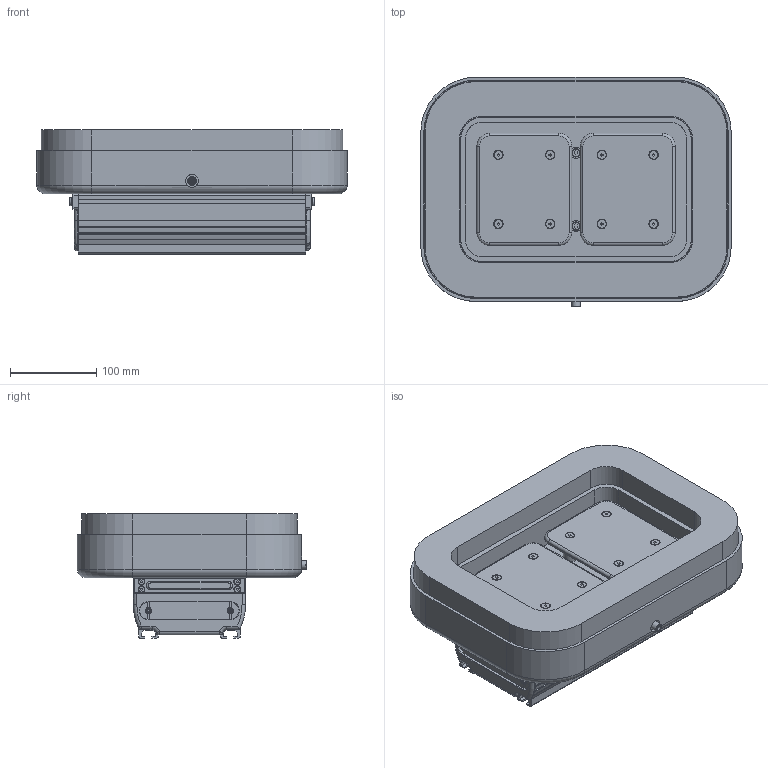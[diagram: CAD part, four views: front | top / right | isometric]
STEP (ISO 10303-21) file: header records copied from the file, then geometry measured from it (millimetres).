
FILE_DESCRIPTION(('STEP AP214'),'1');
FILE_NAME('.stp','2021-08-19T02:57:31',(' '),(' '),'Spatial InterOp 3D',' ',' ');
FILE_SCHEMA(('AUTOMOTIVE_DESIGN { 1 0 10303 214 1 1 1 1 }'));
Length unit declared in the file: millimetre
Products named in the file (103): Body Assy; SGP-000-3104(サイドカバーA); SGP-000-3106(上面カバー); M4*10_____; _NKJ4-10; SGP-000-3105(サイドカバーB); M4*12 __________; M4*12 シールキャップボルト; CTX-0429-3001 Body; プラグ; SGP-_____; CTX-0418-3000; CTX-0418-3001; _____; CVZ Assy; SGP-000-3050(供給ベース); M4*45; _FCBS4-40-10; M4*45_____; SGP-H-250*350-CRT30; Base Assy; CBSTS6-12; stopper; Needle Assy; Needle; LockNut; Oring; shaft 03; CB6; ねじ: 穴付き - M6.0 x 12.0; ねじ: 穴付き - M6.0 x 20.0; Sponzi; S ring; Base
Assembly tree (103 placements, depth 6):
  SGP-H-250*350-CRT30
    Body Assy
      SGP-000-3104(サイドカバーA)
      SGP-000-3106(上面カバー)
      M4*10_____
        _NKJ4-10
        _NKJ4-10
      M4*10_____
        _NKJ4-10
        _NKJ4-10
      SGP-000-3105(サイドカバーB)
      SGP-000-3105(サイドカバーB)
      M4*12 __________
        M4*12 シールキャップボルト
        M4*12 シールキャップボルト
        M4*12 シールキャップボルト
        M4*12 シールキャップボルト
      SGP-000-3104(サイドカバーA)
      M4*12 __________
        M4*12 シールキャップボルト
        M4*12 シールキャップボルト
        M4*12 シールキャップボルト
        M4*12 シールキャップボルト
      CTX-0429-3001 Body
      プラグ
      CVZ Assy
        _____
          SGP-_____
            CTX-0418-3000
            CTX-0418-3001
        _____
          SGP-_____
            CTX-0418-3000
            CTX-0418-3001
        SGP-000-3050(供給ベース)
        M4*45_____
          M4*45
            _FCBS4-40-10
          M4*45
            _FCBS4-40-10
          M4*45
            _FCBS4-40-10
          M4*45
            _FCBS4-40-10
          M4*45
            _FCBS4-40-10
          M4*45
            _FCBS4-40-10
    Base Assy
      CBSTS6-12
      CBSTS6-12
      CBSTS6-12
      CBSTS6-12
      CBSTS6-12
      CBSTS6-12
      CBSTS6-12
      CBSTS6-12
      stopper
      Needle Assy
        Needle
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Bounding box: 360 x 266 x 144.2 mm (x, y, z)
Volume: 5168361.6 mm3; surface area: 1072874.3 mm2
Topology: 70 solids, 70 shells, 1738 faces, 3927 edges, 2501 vertices
Faces by surface type: plane 1062, cylinder 486, cone 129, torus 51, sphere 10
Full cylindrical faces by diameter (mm): 3 x4, 3.3 x6, 3.35 x1, 3.571 x4, 4 x30, 4.5 x8, 4.9 x2, 5 x13, 5.5 x8, 6 x56, 6.5 x1, 7 x38, 8 x8, 9 x1, 9.4 x2, 9.87 x16, 10 x11, 11 x8, 11.4 x2, 11.8 x2, 12 x7, 13 x12, 13.6 x4, 13.85 x4, 14.5 x4, 15 x21, 16 x4, 17 x8
Entity records: 61132 total; most frequent: DIRECTION 8237, CARTESIAN_POINT 8144, ORIENTED_EDGE 6648, EDGE_CURVE 3324, AXIS2_PLACEMENT_3D 3137, EDGE_LOOP 2423, VERTEX_POINT 2371, FACE_OUTER_BOUND 1979
